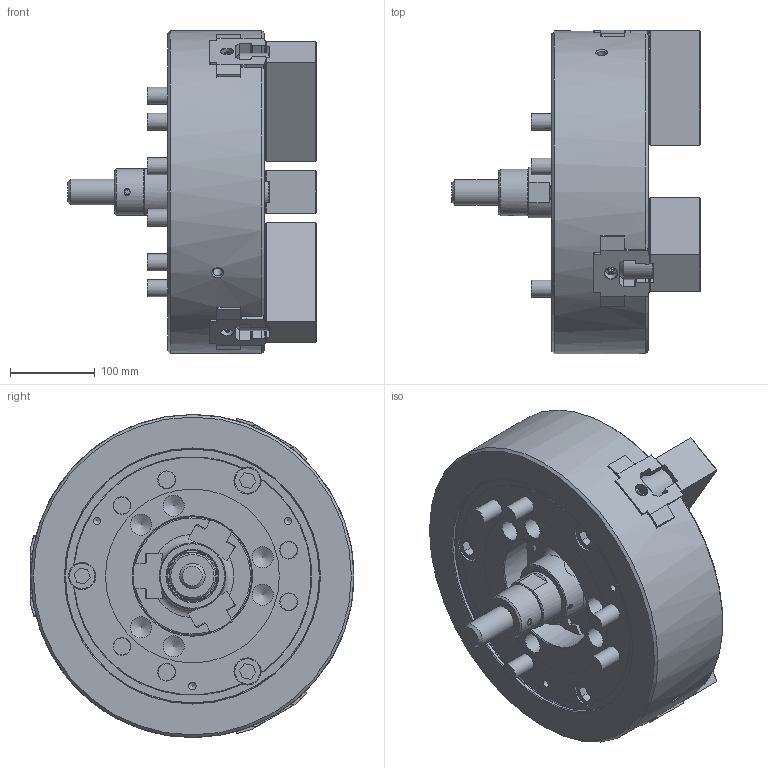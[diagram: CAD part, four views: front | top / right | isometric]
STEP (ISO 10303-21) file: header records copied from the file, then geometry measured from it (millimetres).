
FILE_DESCRIPTION (( 'STEP AP214' ), '1' );
FILE_NAME ('N-15_UC.STEP', '2020-03-09T00:31:25', ( '' ), ( '' ), 'SwSTEP 2.0', 'SolidWorks 2017', '' );
FILE_SCHEMA (( 'AUTOMOTIVE_DESIGN' ));
Length unit declared in the file: millimetre
Products named in the file (21): 61P3211280 ソフトジョー_W_‡_[_ﾃﾞﾌｫﾙﾄ_ATI≪UA; 61P4185360 T僫僢僩b_g; B傾僫僣僉 M20亊550_~55; N-15_UC; 61P3211280 ソフトジョー_W_‡_[; 61P4185360 T僫僢僩b_g_棉太倌佱UA; Part2^61P2826770 クミタテ_^_e; B傾僫僣僉 M20亊550_~55_棉太倌TI佱UA; Part2^61P2826770 僋儈僞僥_^_e_棉太倌I佱UA
Assembly tree (16 placements, depth 2):
  61P4185360 T僫僢僩b_g
  61P4185360 T僫僢僩b_g
  B傾僫僣僉 M20亊550_~55
  B傾僫僣僉 M20亊550_~55
  N-15_UC
    61P3211280 ソフトジョー_W_‡_[_ﾃﾞﾌｫﾙﾄ_ATI≪UA  x3
    61P4185360 T僫僢僩b_g_棉太倌佱UA  x6
    B傾僫僣僉 M20亊550_~55_棉太倌TI佱UA  x6
    Part2^61P2826770 僋儈僞僥_^_e_棉太倌I佱UA
Bounding box: 293.2 x 382 x 381 mm (x, y, z)
Volume: 13239939.9 mm3; surface area: 916297.1 mm2
Topology: 16 solids, 16 shells, 4136 faces, 11953 edges, 7911 vertices
Faces by surface type: plane 3743, cylinder 214, cone 141, torus 31, sphere 6, bspline 1
Full cylindrical faces by diameter (mm): 1.9 x3, 8.8 x3, 10.5 x2, 11 x3, 15 x3, 18 x6, 20 x18, 21 x12, 25 x6, 30 x16, 32 x15, 55 x1, 60 x1, 60.5 x1, 78 x1, 140 x1, 205 x1, 300 x1, 301 x1, 381 x1
Entity records: 91633 total; most frequent: CARTESIAN_POINT 18068, ORIENTED_EDGE 15910, DIRECTION 13926, EDGE_CURVE 7955, LINE 7050, VECTOR 7050, VERTEX_POINT 5329, AXIS2_PLACEMENT_3D 3438
